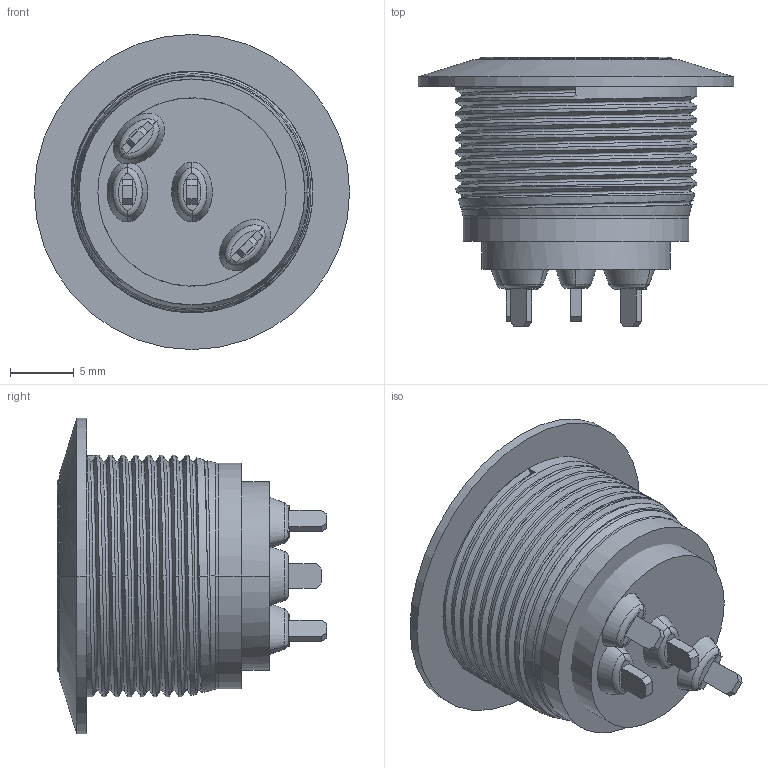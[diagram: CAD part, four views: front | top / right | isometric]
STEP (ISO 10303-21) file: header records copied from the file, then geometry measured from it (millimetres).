
FILE_DESCRIPTION((''),'2;1');
FILE_NAME('AV9SLD2X8X011K','2014-12-22T',('brevel'),(''),'PRO/ENGINEER BY PARAMETRIC TECHNOLOGY CORPORATION, 2013410','PRO/ENGINEER BY PARAMETRIC TECHNOLOGY CORPORATION, 2013410','');
FILE_SCHEMA(('CONFIG_CONTROL_DESIGN'));
Length unit declared in the file: millimetre
Products named in the file (1): AV9SLD2X8X011K
Bounding box: 24.78 x 21.17 x 24.78 mm (x, y, z)
Surface area: 3031 mm2 (no closed solid volume)
Topology: 0 solids, 7 shells, 109 faces, 286 edges, 185 vertices
Faces by surface type: plane 50, bspline 25, cylinder 24, cone 8, torus 2
Entity records: 12074 total; most frequent: CARTESIAN_POINT 9654, ORIENTED_EDGE 555, DIRECTION 376, EDGE_CURVE 286, VERTEX_POINT 185, VECTOR 138, LINE 138, AXIS2_PLACEMENT_3D 119
